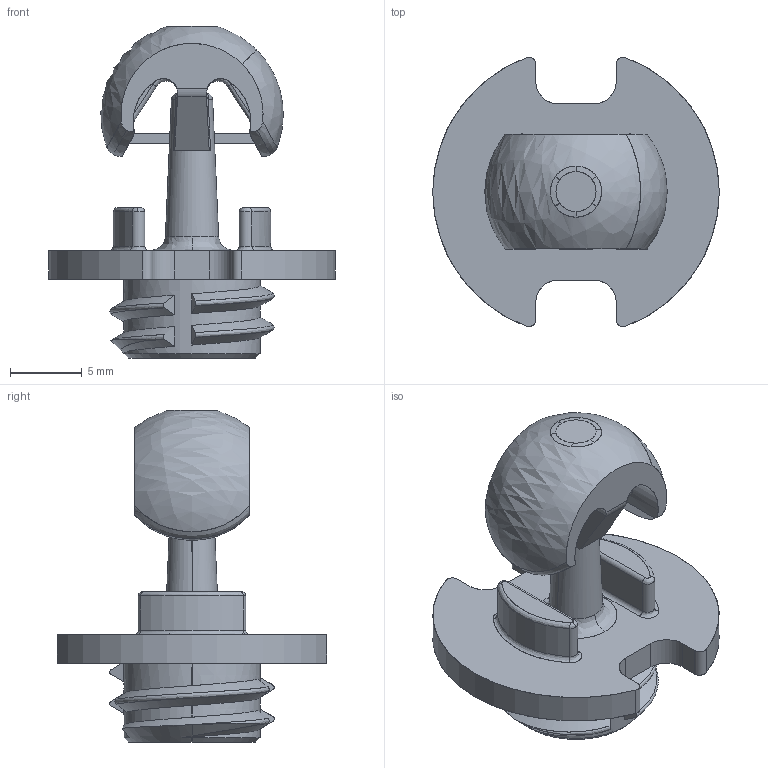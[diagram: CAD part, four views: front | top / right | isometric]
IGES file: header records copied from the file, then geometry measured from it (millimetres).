
Start section: SolidWorks IGES file using analytic representation for surfaces
Global section: file name: D:\Blender\Clients\FAS - Fastmount\FAS000 - General\Customer files\Clip Geometry\PC - Standard Range\IGES\PC-M1B.IGS; native system: SolidWorks 2018; preprocessor: SolidWorks 2018; author: Evan; date: 190204.094006; units: millimetre
Bounding box: 20 x 18.82 x 23.17 mm (x, y, z)
Surface area: 1635.8 mm2 (no closed solid volume)
Topology: 0 solids, 0 shells, 252 faces, 2521 edges, 2513 vertices
Faces by surface type: bspline 201, revolution 51
